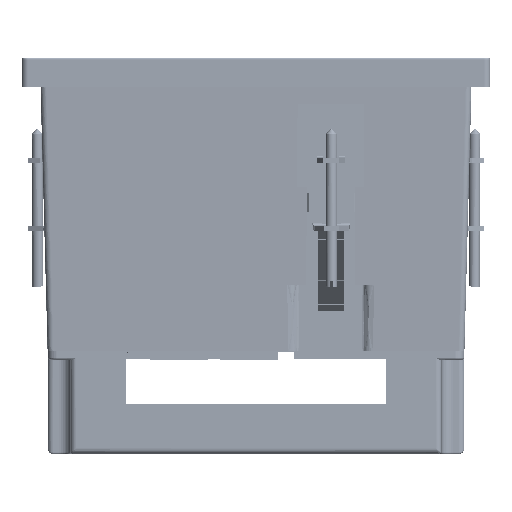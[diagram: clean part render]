
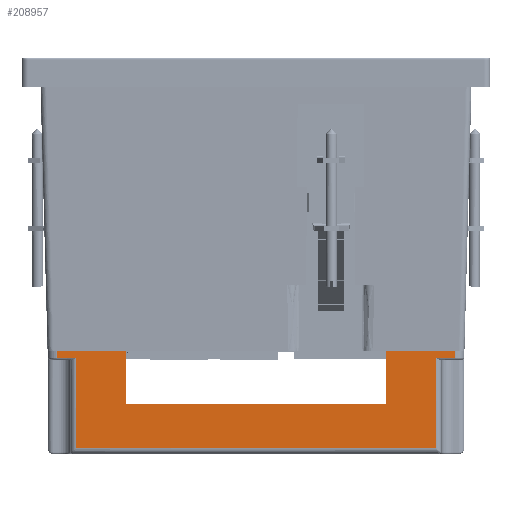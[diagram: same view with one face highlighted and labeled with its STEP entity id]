
A CAD part, front view. The second image highlights one B-rep face of the part: STEP entity #208957.
In plain terms, the highlighted planar face has unit normal (0, -1, 0) as drawn and (1, 0, 0) by its records, which use the part's own axes.
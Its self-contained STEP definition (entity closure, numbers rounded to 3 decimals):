
#816 = DIRECTION ( 'NONE',  ( 0., -1., 0. ) ) ;
#5475 = AXIS2_PLACEMENT_3D ( 'NONE', #203827, #223195, #66240 ) ;
#8987 = VERTEX_POINT ( 'NONE', #251113 ) ;
#9184 = EDGE_CURVE ( 'NONE', #183125, #50956, #105482, .T. ) ;
#10093 = VECTOR ( 'NONE', #194897, 1000. ) ;
#10832 = CARTESIAN_POINT ( 'NONE',  ( 53., -33.15, 13.4 ) ) ;
#17341 = CARTESIAN_POINT ( 'NONE',  ( 53., -45.668, 26.2 ) ) ;
#18288 = CARTESIAN_POINT ( 'NONE',  ( 53., -45.668, 24.7 ) ) ;
#18807 = VECTOR ( 'NONE', #125236, 1000. ) ;
#19331 = VECTOR ( 'NONE', #70338, 1000. ) ;
#23446 = ORIENTED_EDGE ( 'NONE', *, *, #33525, .T. ) ;
#28786 = PLANE ( 'NONE',  #5475 ) ;
#33525 = EDGE_CURVE ( 'NONE', #86913, #8987, #153439, .T. ) ;
#34055 = VECTOR ( 'NONE', #204428, 1000. ) ;
#41134 = CARTESIAN_POINT ( 'NONE',  ( 53., -50.5, 1.66 ) ) ;
#41526 = EDGE_CURVE ( 'NONE', #153901, #86913, #199827, .T. ) ;
#42506 = EDGE_CURVE ( 'NONE', #123287, #111032, #225848, .T. ) ;
#42561 = VERTEX_POINT ( 'NONE', #10832 ) ;
#46951 = CARTESIAN_POINT ( 'NONE',  ( 53., 50.5, 1.66 ) ) ;
#48264 = LINE ( 'NONE', #166576, #186046 ) ;
#49451 = FACE_OUTER_BOUND ( 'NONE', #241959, .T. ) ;
#50956 = VERTEX_POINT ( 'NONE', #101927 ) ;
#54890 = VERTEX_POINT ( 'NONE', #248049 ) ;
#57873 = CARTESIAN_POINT ( 'NONE',  ( 53., 33.15, 0. ) ) ;
#66240 = DIRECTION ( 'NONE',  ( 0., -1., 0. ) ) ;
#68865 = DIRECTION ( 'NONE',  ( 0., 0., -1. ) ) ;
#70338 = DIRECTION ( 'NONE',  ( 0., 0., 1. ) ) ;
#71988 = ORIENTED_EDGE ( 'NONE', *, *, #96261, .T. ) ;
#74009 = EDGE_CURVE ( 'NONE', #153901, #54890, #48264, .T. ) ;
#74438 = LINE ( 'NONE', #232674, #77921 ) ;
#77921 = VECTOR ( 'NONE', #816, 1000. ) ;
#86913 = VERTEX_POINT ( 'NONE', #234576 ) ;
#93248 = ORIENTED_EDGE ( 'NONE', *, *, #9184, .T. ) ;
#96261 = EDGE_CURVE ( 'NONE', #111032, #183125, #219782, .T. ) ;
#97117 = VECTOR ( 'NONE', #187293, 1000. ) ;
#97472 = EDGE_CURVE ( 'NONE', #116368, #54890, #185623, .T. ) ;
#101186 = VECTOR ( 'NONE', #149700, 1000. ) ;
#101381 = ORIENTED_EDGE ( 'NONE', *, *, #199840, .F. ) ;
#101927 = CARTESIAN_POINT ( 'NONE',  ( 53., -33.15, 0. ) ) ;
#105482 = LINE ( 'NONE', #227636, #34055 ) ;
#107059 = VERTEX_POINT ( 'NONE', #18288 ) ;
#111032 = VERTEX_POINT ( 'NONE', #41134 ) ;
#112850 = EDGE_CURVE ( 'NONE', #107059, #123287, #191113, .T. ) ;
#116368 = VERTEX_POINT ( 'NONE', #57873 ) ;
#120221 = CARTESIAN_POINT ( 'NONE',  ( 53., -45.668, 1.66 ) ) ;
#123287 = VERTEX_POINT ( 'NONE', #120221 ) ;
#125236 = DIRECTION ( 'NONE',  ( 0., 1., 0. ) ) ;
#126260 = LINE ( 'NONE', #203416, #127997 ) ;
#126737 = VERTEX_POINT ( 'NONE', #184402 ) ;
#127997 = VECTOR ( 'NONE', #204666, 1000. ) ;
#135682 = EDGE_CURVE ( 'NONE', #116368, #126737, #244138, .T. ) ;
#137312 = ORIENTED_EDGE ( 'NONE', *, *, #248613, .F. ) ;
#143290 = CARTESIAN_POINT ( 'NONE',  ( 53., 50.5, 0. ) ) ;
#148057 = VECTOR ( 'NONE', #235982, 1000. ) ;
#149700 = DIRECTION ( 'NONE',  ( 0., 0., 1. ) ) ;
#152942 = ORIENTED_EDGE ( 'NONE', *, *, #97472, .T. ) ;
#153439 = LINE ( 'NONE', #190735, #101186 ) ;
#153901 = VERTEX_POINT ( 'NONE', #46951 ) ;
#155441 = DIRECTION ( 'NONE',  ( 0., 0., -1. ) ) ;
#157404 = CARTESIAN_POINT ( 'NONE',  ( 53., 45.668, 1.66 ) ) ;
#159238 = CARTESIAN_POINT ( 'NONE',  ( 53., -50.5, 26.2 ) ) ;
#164164 = CARTESIAN_POINT ( 'NONE',  ( 53., -50.5, 0. ) ) ;
#164169 = CARTESIAN_POINT ( 'NONE',  ( 53., 50.5, 24.7 ) ) ;
#165623 = ORIENTED_EDGE ( 'NONE', *, *, #211573, .T. ) ;
#166576 = CARTESIAN_POINT ( 'NONE',  ( 53., 50.5, 26.2 ) ) ;
#168875 = ORIENTED_EDGE ( 'NONE', *, *, #112850, .T. ) ;
#169106 = DIRECTION ( 'NONE',  ( 0., -1., 0. ) ) ;
#173760 = ORIENTED_EDGE ( 'NONE', *, *, #135682, .F. ) ;
#183125 = VERTEX_POINT ( 'NONE', #164164 ) ;
#184402 = CARTESIAN_POINT ( 'NONE',  ( 53., 33.15, 13.4 ) ) ;
#185623 = LINE ( 'NONE', #143290, #18807 ) ;
#186046 = VECTOR ( 'NONE', #68865, 1000. ) ;
#187293 = DIRECTION ( 'NONE',  ( 0., -1., 0. ) ) ;
#190735 = CARTESIAN_POINT ( 'NONE',  ( 53., 45.668, 26.2 ) ) ;
#191113 = LINE ( 'NONE', #17341, #10093 ) ;
#194897 = DIRECTION ( 'NONE',  ( 0., 0., -1. ) ) ;
#199827 = LINE ( 'NONE', #157404, #148057 ) ;
#199840 = EDGE_CURVE ( 'NONE', #42561, #50956, #126260, .T. ) ;
#203416 = CARTESIAN_POINT ( 'NONE',  ( 53., -33.15, 13.4 ) ) ;
#203827 = CARTESIAN_POINT ( 'NONE',  ( 53., 50.5, 26.2 ) ) ;
#204428 = DIRECTION ( 'NONE',  ( 0., 1., 0. ) ) ;
#204666 = DIRECTION ( 'NONE',  ( 0., 0., -1. ) ) ;
#208957 = ADVANCED_FACE ( 'NONE', ( #49451 ), #28786, .F. ) ;
#209001 = CARTESIAN_POINT ( 'NONE',  ( 53., -50.5, 1.66 ) ) ;
#211573 = EDGE_CURVE ( 'NONE', #8987, #107059, #228508, .T. ) ;
#217481 = ORIENTED_EDGE ( 'NONE', *, *, #41526, .T. ) ;
#219782 = LINE ( 'NONE', #159238, #252493 ) ;
#223195 = DIRECTION ( 'NONE',  ( -1., 0., 0. ) ) ;
#225848 = LINE ( 'NONE', #209001, #238228 ) ;
#227636 = CARTESIAN_POINT ( 'NONE',  ( 53., 50.5, 0. ) ) ;
#228508 = LINE ( 'NONE', #164169, #97117 ) ;
#232674 = CARTESIAN_POINT ( 'NONE',  ( 53., -33.15, 13.4 ) ) ;
#234576 = CARTESIAN_POINT ( 'NONE',  ( 53., 45.668, 1.66 ) ) ;
#235982 = DIRECTION ( 'NONE',  ( 0., -1., 0. ) ) ;
#238228 = VECTOR ( 'NONE', #169106, 1000. ) ;
#241959 = EDGE_LOOP ( 'NONE', ( #168875, #250569, #71988, #93248, #101381, #137312, #173760, #152942, #243038, #217481, #23446, #165623 ) ) ;
#243038 = ORIENTED_EDGE ( 'NONE', *, *, #74009, .F. ) ;
#244138 = LINE ( 'NONE', #249237, #19331 ) ;
#248049 = CARTESIAN_POINT ( 'NONE',  ( 53., 50.5, 0. ) ) ;
#248613 = EDGE_CURVE ( 'NONE', #126737, #42561, #74438, .T. ) ;
#249237 = CARTESIAN_POINT ( 'NONE',  ( 53., 33.15, 13.4 ) ) ;
#250569 = ORIENTED_EDGE ( 'NONE', *, *, #42506, .T. ) ;
#251113 = CARTESIAN_POINT ( 'NONE',  ( 53., 45.668, 24.7 ) ) ;
#252493 = VECTOR ( 'NONE', #155441, 1000. ) ;
